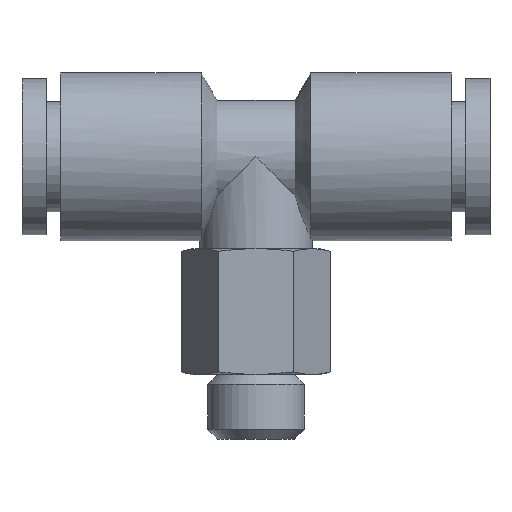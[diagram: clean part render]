
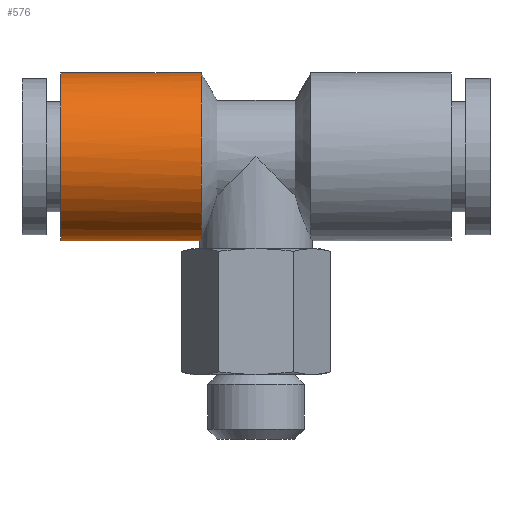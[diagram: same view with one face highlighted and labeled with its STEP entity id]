
A CAD part, top view. The second image highlights one B-rep face of the part: STEP entity #576.
In plain terms, the highlighted cylindrical face has radius 5.2 mm (diameter 10.4 mm), a full revolution.
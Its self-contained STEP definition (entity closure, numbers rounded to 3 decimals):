
#69=B_SPLINE_CURVE_WITH_KNOTS('',3,(#869,#870,#871,#872),.UNSPECIFIED.,
 .F.,.F.,(4,4),(0.005,0.006),.UNSPECIFIED.);
#203=ORIENTED_EDGE('',*,*,#250,.T.);
#204=ORIENTED_EDGE('',*,*,#306,.F.);
#205=ORIENTED_EDGE('',*,*,#307,.T.);
#250=EDGE_CURVE('',#325,#326,#69,.T.);
#306=EDGE_CURVE('',#325,#326,#394,.T.);
#307=EDGE_CURVE('',#363,#363,#395,.T.);
#325=VERTEX_POINT('',#873);
#326=VERTEX_POINT('',#874);
#363=VERTEX_POINT('',#1084);
#394=CIRCLE('',#655,5.2);
#395=CIRCLE('',#656,5.2);
#443=EDGE_LOOP('',(#203,#204));
#444=EDGE_LOOP('',(#205));
#507=FACE_BOUND('',#443,.T.);
#508=FACE_BOUND('',#444,.T.);
#542=CYLINDRICAL_SURFACE('',#654,5.2);
#576=ADVANCED_FACE('',(#507,#508),#542,.T.);
#654=AXIS2_PLACEMENT_3D('',#1081,#791,#792);
#655=AXIS2_PLACEMENT_3D('',#1082,#793,#794);
#656=AXIS2_PLACEMENT_3D('',#1083,#795,#796);
#791=DIRECTION('',(1.,0.,0.));
#792=DIRECTION('',(0.,0.,-1.));
#793=DIRECTION('',(1.,0.,0.));
#794=DIRECTION('',(0.,0.,-1.));
#795=DIRECTION('',(1.,0.,0.));
#796=DIRECTION('',(0.,0.,-1.));
#869=CARTESIAN_POINT('',(-3.4,8.367,-0.831));
#870=CARTESIAN_POINT('',(-3.531,8.28,-0.293));
#871=CARTESIAN_POINT('',(-3.533,8.279,0.288));
#872=CARTESIAN_POINT('',(-3.4,8.367,0.831));
#873=CARTESIAN_POINT('',(-3.4,8.367,-0.831));
#874=CARTESIAN_POINT('',(-3.4,8.367,0.831));
#1081=CARTESIAN_POINT('',(14.5,13.5,0.));
#1082=CARTESIAN_POINT('',(-3.4,13.5,0.));
#1083=CARTESIAN_POINT('',(-12.1,13.5,0.));
#1084=CARTESIAN_POINT('',(-12.1,13.5,-5.2));
